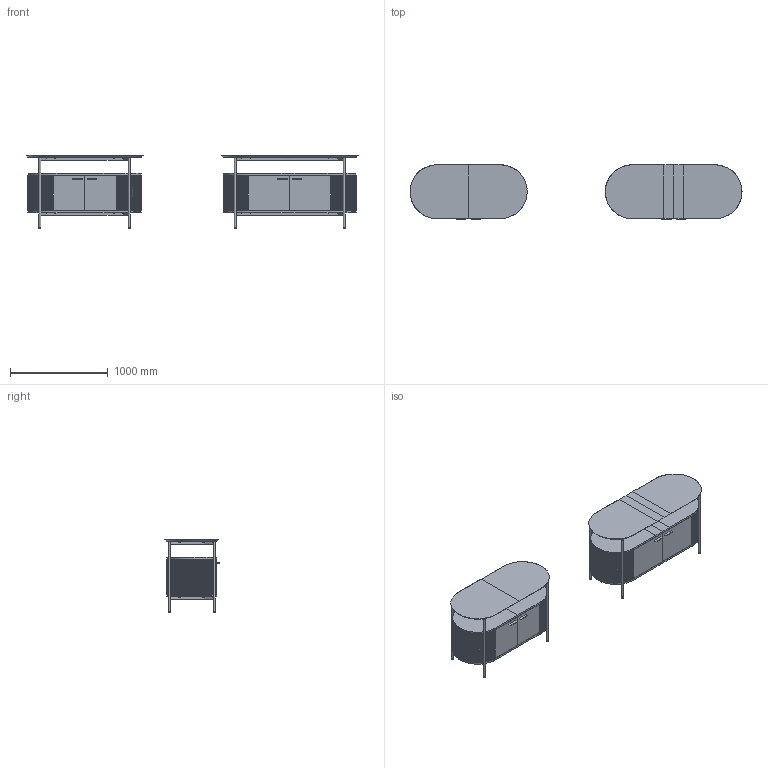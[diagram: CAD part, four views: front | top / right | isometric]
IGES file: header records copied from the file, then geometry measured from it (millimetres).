
Global section: file name: \\Archi-NAS\Comune\X GIOVANNI\SCHEDE PRODOTTO\MOBILI 3D\ECLIPSE\MOMA DESIGN_MOBILI_ECLIPSE_04.igs; native system: Rhinoceros ( Jan 17 2018 ); preprocessor: Trout Lake IGES 012 Jan 17 2018; date: 240415.134502; units: millimetre
Bounding box: 3399.57 x 555.56 x 750 mm (x, y, z)
Surface area: 18572294.4 mm2 (no closed solid volume)
Topology: 0 solids, 0 shells, 4368 faces, 20144 edges, 20184 vertices
Faces by surface type: bspline 4368
